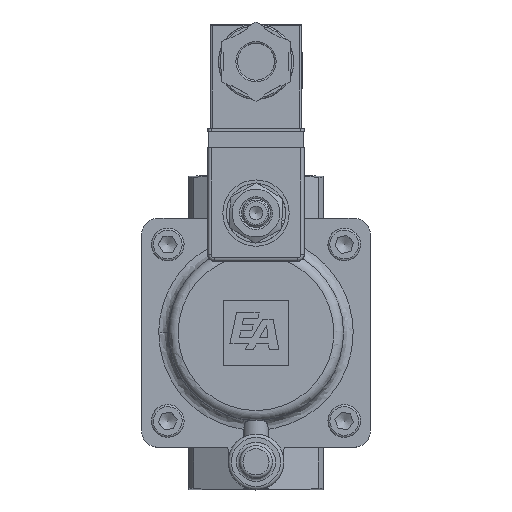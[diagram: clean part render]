
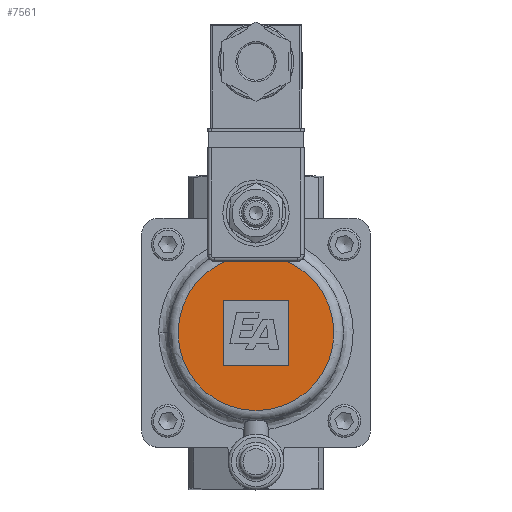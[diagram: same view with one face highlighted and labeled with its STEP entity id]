
A CAD part, top view. The second image highlights one B-rep face of the part: STEP entity #7561.
In plain terms, the highlighted planar face has unit normal (0, 0, 1).
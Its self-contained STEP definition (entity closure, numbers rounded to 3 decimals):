
#5708=CARTESIAN_POINT('',(-10.,10.,11.5));
#5709=VERTEX_POINT('',#5708);
#5710=CARTESIAN_POINT('',(10.,10.,11.5));
#5711=VERTEX_POINT('',#5710);
#5712=CARTESIAN_POINT('',(-10.,10.,11.5));
#5713=DIRECTION('',(1.0,0.0,0.0));
#5714=VECTOR('',#5713,20.0);
#5715=LINE('',#5712,#5714);
#5716=EDGE_CURVE('',#5709,#5711,#5715,.T.);
#7100=CARTESIAN_POINT('',(-10.,-10.,11.5));
#7101=VERTEX_POINT('',#7100);
#7102=CARTESIAN_POINT('',(-10.,-10.0,11.5));
#7103=DIRECTION('',(0.0,1.0,0.0));
#7104=VECTOR('',#7103,20.);
#7105=LINE('',#7102,#7104);
#7106=EDGE_CURVE('',#7101,#5709,#7105,.T.);
#7124=CARTESIAN_POINT('',(10.,-10.,11.5));
#7125=VERTEX_POINT('',#7124);
#7126=CARTESIAN_POINT('',(10.,-10.,11.5));
#7127=DIRECTION('',(-1.0,0.0,0.0));
#7128=VECTOR('',#7127,20.0);
#7129=LINE('',#7126,#7128);
#7130=EDGE_CURVE('',#7125,#7101,#7129,.T.);
#7148=CARTESIAN_POINT('',(10.,10.,11.5));
#7149=DIRECTION('',(0.0,-1.0,0.0));
#7150=VECTOR('',#7149,20.);
#7151=LINE('',#7148,#7150);
#7152=EDGE_CURVE('',#5711,#7125,#7151,.T.);
#7421=CARTESIAN_POINT('',(23.814,0.,11.5));
#7422=VERTEX_POINT('',#7421);
#7423=CARTESIAN_POINT('',(0.,0.,11.5));
#7424=DIRECTION('',(0.0,0.0,-1.0));
#7425=DIRECTION('',(-1.0,0.0,0.0));
#7426=AXIS2_PLACEMENT_3D('',#7423,#7424,#7425);
#7427=CIRCLE('',#7426,23.814);
#7428=EDGE_CURVE('',#7422,#7422,#7427,.T.);
#7547=CARTESIAN_POINT('',(0.,0.,11.5));
#7548=DIRECTION('',(0.0,0.0,-1.0));
#7549=DIRECTION('',(-1.0,0.0,0.0));
#7550=AXIS2_PLACEMENT_3D('',#7547,#7548,#7549);
#7551=PLANE('',#7550);
#7552=ORIENTED_EDGE('',*,*,#7428,.F.);
#7553=EDGE_LOOP('',(#7552));
#7554=FACE_OUTER_BOUND('',#7553,.T.);
#7555=ORIENTED_EDGE('',*,*,#7130,.T.);
#7556=ORIENTED_EDGE('',*,*,#7106,.T.);
#7557=ORIENTED_EDGE('',*,*,#5716,.T.);
#7558=ORIENTED_EDGE('',*,*,#7152,.T.);
#7559=EDGE_LOOP('',(#7555,#7556,#7557,#7558));
#7560=FACE_BOUND('',#7559,.T.);
#7561=ADVANCED_FACE('',(#7554,#7560),#7551,.F.);
